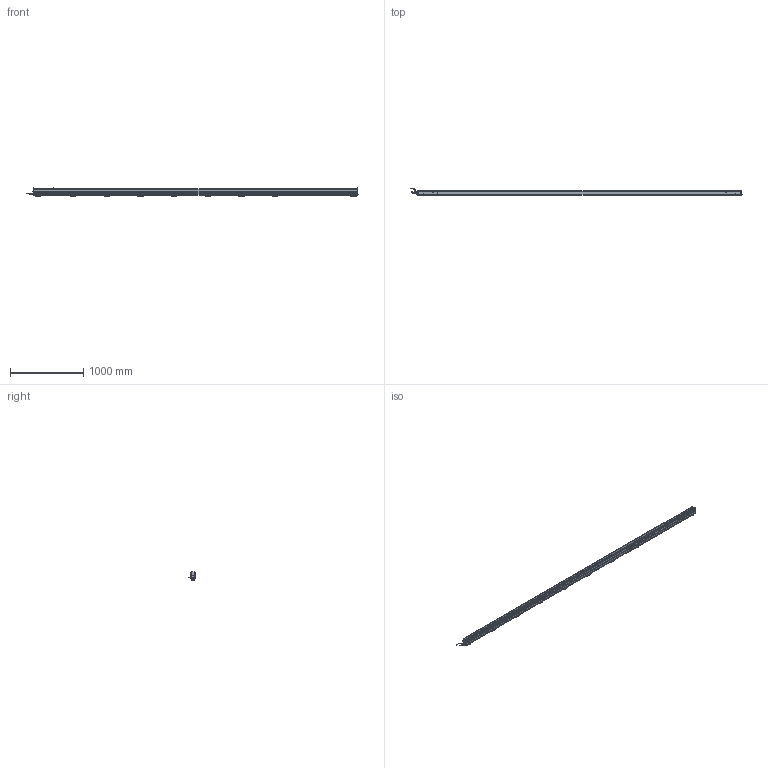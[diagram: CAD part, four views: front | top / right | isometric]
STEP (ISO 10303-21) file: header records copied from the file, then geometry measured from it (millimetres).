
FILE_DESCRIPTION(/* description */ (''),/* implementation_level */ '2;1');
FILE_NAME(/* name */ 'THUNDERION2_3D_4250-4445',/* time_stamp */ '2017-09-28T12:46:00+02:00',/* author */ (''),/* organization */ (''),/* preprocessor_version */ 'ST-DEVELOPER v15.7',/* originating_system */ 'HiCAD 2015 2002.1 Build 408',/* authorisation */ '');
FILE_SCHEMA (('AUTOMOTIVE_DESIGN { 1 0 10303 214 1 1 1 1 }'));
Products named in the file (145): Root; -_ThunderION 4250/4445; -_Side profile; -_Bar; -_Connector straight; EXTRUDED SOLID_0; -_Cord; REVOLVED SOLID_1; REVOLVED SOLID_3; DIN 13-M12x1,5; -_Connector angled; REVOLVED SOLID_2; 4532000100_Mounting bracket bars; -_Side piece; -_Slide piece; -_Bracket small; DIN 13-M3; DIN 76-M3; -_Cable End; light pipe M; light pipe L; -_Cap CE; -_Stud M4; -_Connector M12 male 5 pole_1; -_Contacts; ABSR_1_2_1_1_Inner part; ABSR_1_2_1_2_Inner part; bus; Pg 9; -_Ring tongue terminal; 9230000020_Nut M4; GEWINDE; 9240100020_Spring washer M4; ISO 7051-ST3.5x9.5-C-H_Tapping screws_0; -_Fill; -_Dead end; -_Cap DE; -_Emitter; -_Support Side Profile; -_End Plate
Assembly tree (144 placements, depth 6):
  Root
    -_ThunderION 4250/4445
      -_Side profile
      -_Side profile
      -_Bar
      -_Connector straight
        EXTRUDED SOLID_0
        -_Cord
        REVOLVED SOLID_1
        REVOLVED SOLID_3
          DIN 13-M12x1,5
      -_Connector angled
        REVOLVED SOLID_1
        EXTRUDED SOLID_0
        -_Cord
        REVOLVED SOLID_2
        REVOLVED SOLID_3
          DIN 13-M12x1,5
      4532000100_Mounting bracket bars
        -_Side piece
        -_Side piece
        -_Slide piece
        -_Bracket small
          DIN 13-M3
          DIN 13-M3
          DIN 76-M3
          DIN 76-M3
      4532000100_Mounting bracket bars
        -_Side piece
        -_Side piece
        -_Slide piece
        -_Bracket small
          DIN 13-M3
          DIN 13-M3
          DIN 76-M3
          DIN 76-M3
      4532000100_Mounting bracket bars
        -_Side piece
        -_Side piece
        -_Slide piece
        -_Bracket small
          DIN 13-M3
          DIN 13-M3
          DIN 76-M3
          DIN 76-M3
      4532000100_Mounting bracket bars
        -_Side piece
        -_Side piece
        -_Slide piece
        -_Bracket small
          DIN 13-M3
          DIN 13-M3
          DIN 76-M3
          DIN 76-M3
      4532000100_Mounting bracket bars
        -_Side piece
        -_Side piece
        -_Slide piece
        -_Bracket small
          DIN 13-M3
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Bounding box: 4523.34 x 92.21 x 113 mm (x, y, z)
Volume: 14007753.7 mm3; surface area: 3187084.3 mm2
Topology: 133 solids, 160 shells, 7428 faces, 18915 edges, 11383 vertices
Faces by surface type: cylinder 3046, plane 3006, torus 413, bspline 408, sphere 370, cone 185
Full cylindrical faces by diameter (mm): 0.8 x10, 1 x10, 2.387 x36, 2.5 x1, 2.64 x16, 3 x72, 3.141 x2, 3.5 x8, 4 x26, 4.2 x3, 4.4 x1, 5 x4, 5.5 x45, 7.3 x8, 8 x2, 8.4 x2, 9 x6, 9.6 x1, 10 x2, 10.16 x1, 10.5 x2, 11 x4, 12 x5, 12.8 x1, 13.8 x4, 13.86 x1, 14.5 x3, 15.199 x1, 15.2 x1
Entity records: 430526 total; most frequent: CARTESIAN_POINT 112771, DIRECTION 36801, PRESENTATION_STYLE_ASSIGNMENT 35870, OVER_RIDING_STYLED_ITEM 35741, DRAUGHTING_PRE_DEFINED_CURVE_FONT 35684, CURVE_STYLE 35684, ORIENTED_EDGE 35684, EDGE_CURVE 17842
